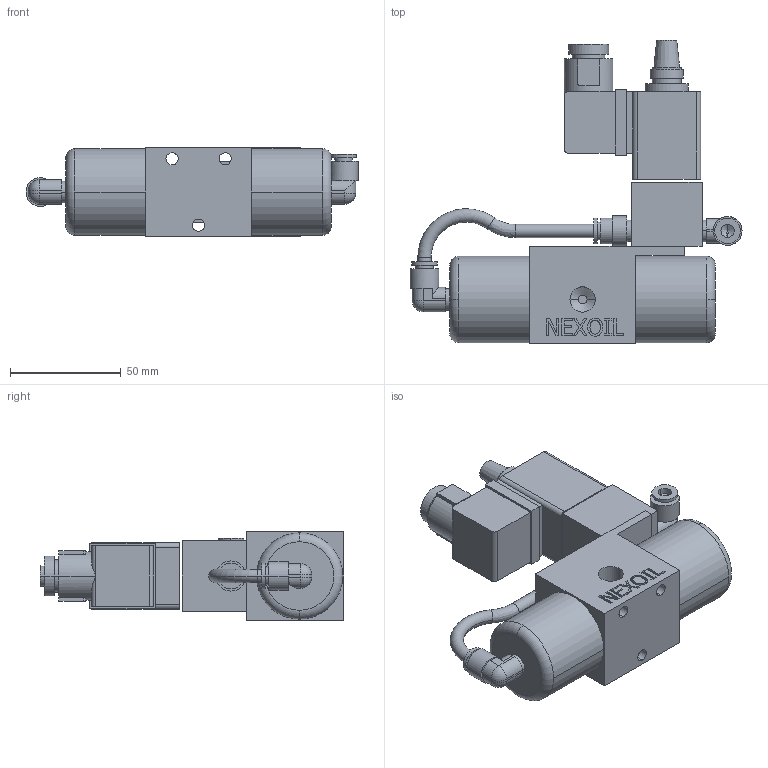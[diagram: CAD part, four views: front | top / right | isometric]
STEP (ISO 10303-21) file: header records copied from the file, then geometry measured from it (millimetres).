
FILE_DESCRIPTION((''),'2;1');
FILE_NAME('7060004_5_7_8_3D.stp','2017-06-01T10:06:39',(''),(''),'Mechanical Desktop 2008','Mechanical Desktop 2008',', , ');
FILE_SCHEMA(('AUTOMOTIVE_DESIGN { 1 2 10303 214 1 1 1 1 }'));
Length unit declared in the file: millimetre
Products named in the file (5): 7060004_3D; PART1; RACC; RACCDRIT; CONNETTORE
Assembly tree (5 placements, depth 2):
  7060004_3D
    PART1
    RACC  x2
    RACCDRIT
    CONNETTORE
Bounding box: 150 x 137.18 x 40 mm (x, y, z)
Volume: 271557.6 mm3; surface area: 52070.1 mm2
Topology: 7 solids, 7 shells, 301 faces, 741 edges, 477 vertices
Faces by surface type: plane 146, cylinder 100, bspline 29, cone 16, torus 6, sphere 4
Entity records: 8359 total; most frequent: CARTESIAN_POINT 1893, ORIENTED_EDGE 1316, DIRECTION 1281, EDGE_CURVE 658, AXIS2_PLACEMENT_3D 441, VERTEX_POINT 432, VECTOR 399, LINE 399
